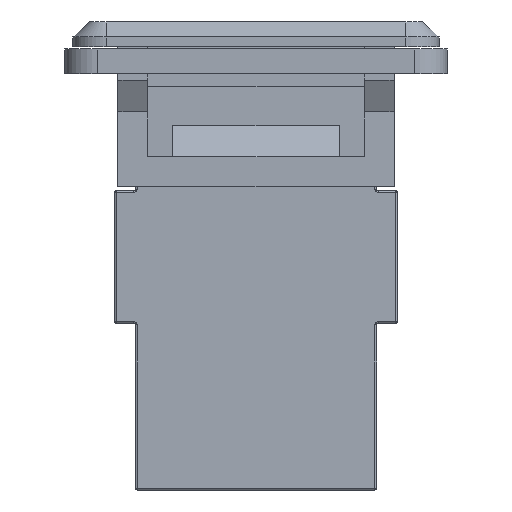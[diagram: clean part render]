
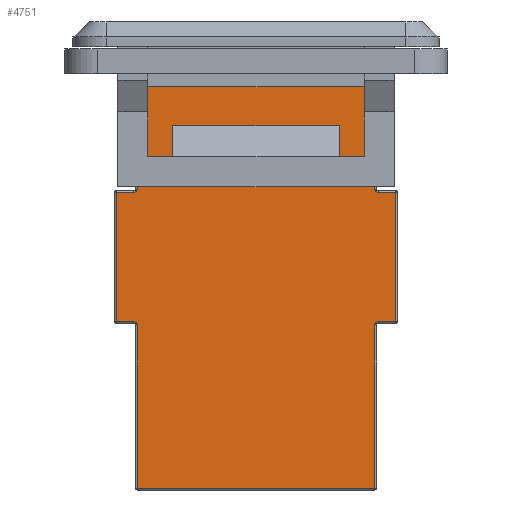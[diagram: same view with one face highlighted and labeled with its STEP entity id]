
A CAD part, left-side view. The second image highlights one B-rep face of the part: STEP entity #4751.
In plain terms, the highlighted planar face has unit normal (-1, 0, 0) as drawn and (0, 1, 0) by its records, which use the part's own axes.
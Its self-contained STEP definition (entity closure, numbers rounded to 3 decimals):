
#4386 = VERTEX_POINT('',#4387);
#4387 = CARTESIAN_POINT('',(-7.15,8.05,-13.9));
#4394 = EDGE_CURVE('',#4395,#4386,#4397,.T.);
#4395 = VERTEX_POINT('',#4396);
#4396 = CARTESIAN_POINT('',(7.15,8.05,-13.9));
#4397 = LINE('',#4398,#4399);
#4398 = CARTESIAN_POINT('',(7.25,8.05,-13.9));
#4399 = VECTOR('',#4400,1.);
#4400 = DIRECTION('',(-1.,-0.,-0.));
#4751 = ADVANCED_FACE('',(#4752,#4877),#4911,.T.);
#4752 = FACE_BOUND('',#4753,.T.);
#4753 = EDGE_LOOP('',(#4754,#4764,#4772,#4781,#4787,#4788,#4796,#4805,
    #4813,#4821,#4829,#4838,#4846,#4854,#4862,#4871));
#4754 = ORIENTED_EDGE('',*,*,#4755,.F.);
#4755 = EDGE_CURVE('',#4756,#4758,#4760,.T.);
#4756 = VERTEX_POINT('',#4757);
#4757 = CARTESIAN_POINT('',(8.4,8.05,-3.88));
#4758 = VERTEX_POINT('',#4759);
#4759 = CARTESIAN_POINT('',(8.4,8.05,3.88));
#4760 = LINE('',#4761,#4762);
#4761 = CARTESIAN_POINT('',(8.4,8.05,0.));
#4762 = VECTOR('',#4763,1.);
#4763 = DIRECTION('',(0.,0.,1.));
#4764 = ORIENTED_EDGE('',*,*,#4765,.T.);
#4765 = EDGE_CURVE('',#4756,#4766,#4768,.T.);
#4766 = VERTEX_POINT('',#4767);
#4767 = CARTESIAN_POINT('',(7.35,8.05,-3.88));
#4768 = LINE('',#4769,#4770);
#4769 = CARTESIAN_POINT('',(8.5,8.05,-3.88));
#4770 = VECTOR('',#4771,1.);
#4771 = DIRECTION('',(-1.,-0.,-0.));
#4772 = ORIENTED_EDGE('',*,*,#4773,.T.);
#4773 = EDGE_CURVE('',#4766,#4774,#4776,.T.);
#4774 = VERTEX_POINT('',#4775);
#4775 = CARTESIAN_POINT('',(7.15,8.05,-4.08));
#4776 = CIRCLE('',#4777,0.2);
#4777 = AXIS2_PLACEMENT_3D('',#4778,#4779,#4780);
#4778 = CARTESIAN_POINT('',(7.35,8.05,-4.08));
#4779 = DIRECTION('',(0.,-1.,0.));
#4780 = DIRECTION('',(0.,0.,1.));
#4781 = ORIENTED_EDGE('',*,*,#4782,.T.);
#4782 = EDGE_CURVE('',#4774,#4395,#4783,.T.);
#4783 = LINE('',#4784,#4785);
#4784 = CARTESIAN_POINT('',(7.15,8.05,-3.98));
#4785 = VECTOR('',#4786,1.);
#4786 = DIRECTION('',(-0.,-0.,-1.));
#4787 = ORIENTED_EDGE('',*,*,#4394,.T.);
#4788 = ORIENTED_EDGE('',*,*,#4789,.F.);
#4789 = EDGE_CURVE('',#4790,#4386,#4792,.T.);
#4790 = VERTEX_POINT('',#4791);
#4791 = CARTESIAN_POINT('',(-7.15,8.05,-4.08));
#4792 = LINE('',#4793,#4794);
#4793 = CARTESIAN_POINT('',(-7.15,8.05,-3.98));
#4794 = VECTOR('',#4795,1.);
#4795 = DIRECTION('',(-0.,-0.,-1.));
#4796 = ORIENTED_EDGE('',*,*,#4797,.F.);
#4797 = EDGE_CURVE('',#4798,#4790,#4800,.T.);
#4798 = VERTEX_POINT('',#4799);
#4799 = CARTESIAN_POINT('',(-7.35,8.05,-3.88));
#4800 = CIRCLE('',#4801,0.2);
#4801 = AXIS2_PLACEMENT_3D('',#4802,#4803,#4804);
#4802 = CARTESIAN_POINT('',(-7.35,8.05,-4.08));
#4803 = DIRECTION('',(0.,1.,0.));
#4804 = DIRECTION('',(0.,-0.,1.));
#4805 = ORIENTED_EDGE('',*,*,#4806,.T.);
#4806 = EDGE_CURVE('',#4798,#4807,#4809,.T.);
#4807 = VERTEX_POINT('',#4808);
#4808 = CARTESIAN_POINT('',(-8.4,8.05,-3.88));
#4809 = LINE('',#4810,#4811);
#4810 = CARTESIAN_POINT('',(-7.25,8.05,-3.88));
#4811 = VECTOR('',#4812,1.);
#4812 = DIRECTION('',(-1.,-0.,-0.));
#4813 = ORIENTED_EDGE('',*,*,#4814,.F.);
#4814 = EDGE_CURVE('',#4815,#4807,#4817,.T.);
#4815 = VERTEX_POINT('',#4816);
#4816 = CARTESIAN_POINT('',(-8.4,8.05,3.88));
#4817 = LINE('',#4818,#4819);
#4818 = CARTESIAN_POINT('',(-8.4,8.05,0.));
#4819 = VECTOR('',#4820,1.);
#4820 = DIRECTION('',(-0.,-0.,-1.));
#4821 = ORIENTED_EDGE('',*,*,#4822,.F.);
#4822 = EDGE_CURVE('',#4823,#4815,#4825,.T.);
#4823 = VERTEX_POINT('',#4824);
#4824 = CARTESIAN_POINT('',(-7.35,8.05,3.88));
#4825 = LINE('',#4826,#4827);
#4826 = CARTESIAN_POINT('',(-7.25,8.05,3.88));
#4827 = VECTOR('',#4828,1.);
#4828 = DIRECTION('',(-1.,0.,0.));
#4829 = ORIENTED_EDGE('',*,*,#4830,.T.);
#4830 = EDGE_CURVE('',#4823,#4831,#4833,.T.);
#4831 = VERTEX_POINT('',#4832);
#4832 = CARTESIAN_POINT('',(-7.15,8.05,4.08));
#4833 = CIRCLE('',#4834,0.2);
#4834 = AXIS2_PLACEMENT_3D('',#4835,#4836,#4837);
#4835 = CARTESIAN_POINT('',(-7.35,8.05,4.08));
#4836 = DIRECTION('',(0.,-1.,0.));
#4837 = DIRECTION('',(0.,0.,-1.));
#4838 = ORIENTED_EDGE('',*,*,#4839,.T.);
#4839 = EDGE_CURVE('',#4831,#4840,#4842,.T.);
#4840 = VERTEX_POINT('',#4841);
#4841 = CARTESIAN_POINT('',(-7.15,8.05,13.9));
#4842 = LINE('',#4843,#4844);
#4843 = CARTESIAN_POINT('',(-7.15,8.05,3.98));
#4844 = VECTOR('',#4845,1.);
#4845 = DIRECTION('',(0.,0.,1.));
#4846 = ORIENTED_EDGE('',*,*,#4847,.F.);
#4847 = EDGE_CURVE('',#4848,#4840,#4850,.T.);
#4848 = VERTEX_POINT('',#4849);
#4849 = CARTESIAN_POINT('',(7.15,8.05,13.9));
#4850 = LINE('',#4851,#4852);
#4851 = CARTESIAN_POINT('',(7.25,8.05,13.9));
#4852 = VECTOR('',#4853,1.);
#4853 = DIRECTION('',(-1.,0.,0.));
#4854 = ORIENTED_EDGE('',*,*,#4855,.F.);
#4855 = EDGE_CURVE('',#4856,#4848,#4858,.T.);
#4856 = VERTEX_POINT('',#4857);
#4857 = CARTESIAN_POINT('',(7.15,8.05,4.08));
#4858 = LINE('',#4859,#4860);
#4859 = CARTESIAN_POINT('',(7.15,8.05,3.98));
#4860 = VECTOR('',#4861,1.);
#4861 = DIRECTION('',(0.,0.,1.));
#4862 = ORIENTED_EDGE('',*,*,#4863,.F.);
#4863 = EDGE_CURVE('',#4864,#4856,#4866,.T.);
#4864 = VERTEX_POINT('',#4865);
#4865 = CARTESIAN_POINT('',(7.35,8.05,3.88));
#4866 = CIRCLE('',#4867,0.2);
#4867 = AXIS2_PLACEMENT_3D('',#4868,#4869,#4870);
#4868 = CARTESIAN_POINT('',(7.35,8.05,4.08));
#4869 = DIRECTION('',(0.,1.,0.));
#4870 = DIRECTION('',(0.,0.,-1.));
#4871 = ORIENTED_EDGE('',*,*,#4872,.F.);
#4872 = EDGE_CURVE('',#4758,#4864,#4873,.T.);
#4873 = LINE('',#4874,#4875);
#4874 = CARTESIAN_POINT('',(8.5,8.05,3.88));
#4875 = VECTOR('',#4876,1.);
#4876 = DIRECTION('',(-1.,0.,0.));
#4877 = FACE_BOUND('',#4878,.T.);
#4878 = EDGE_LOOP('',(#4879,#4889,#4897,#4905));
#4879 = ORIENTED_EDGE('',*,*,#4880,.F.);
#4880 = EDGE_CURVE('',#4881,#4883,#4885,.T.);
#4881 = VERTEX_POINT('',#4882);
#4882 = CARTESIAN_POINT('',(5.,8.05,5.9));
#4883 = VERTEX_POINT('',#4884);
#4884 = CARTESIAN_POINT('',(-5.,8.05,5.9));
#4885 = LINE('',#4886,#4887);
#4886 = CARTESIAN_POINT('',(5.,8.05,5.9));
#4887 = VECTOR('',#4888,1.);
#4888 = DIRECTION('',(-1.,0.,0.));
#4889 = ORIENTED_EDGE('',*,*,#4890,.F.);
#4890 = EDGE_CURVE('',#4891,#4881,#4893,.T.);
#4891 = VERTEX_POINT('',#4892);
#4892 = CARTESIAN_POINT('',(5.,8.05,7.9));
#4893 = LINE('',#4894,#4895);
#4894 = CARTESIAN_POINT('',(5.,8.05,7.9));
#4895 = VECTOR('',#4896,1.);
#4896 = DIRECTION('',(0.,0.,-1.));
#4897 = ORIENTED_EDGE('',*,*,#4898,.F.);
#4898 = EDGE_CURVE('',#4899,#4891,#4901,.T.);
#4899 = VERTEX_POINT('',#4900);
#4900 = CARTESIAN_POINT('',(-5.,8.05,7.9));
#4901 = LINE('',#4902,#4903);
#4902 = CARTESIAN_POINT('',(-5.,8.05,7.9));
#4903 = VECTOR('',#4904,1.);
#4904 = DIRECTION('',(1.,0.,0.));
#4905 = ORIENTED_EDGE('',*,*,#4906,.F.);
#4906 = EDGE_CURVE('',#4883,#4899,#4907,.T.);
#4907 = LINE('',#4908,#4909);
#4908 = CARTESIAN_POINT('',(-5.,8.05,5.9));
#4909 = VECTOR('',#4910,1.);
#4910 = DIRECTION('',(0.,0.,1.));
#4911 = PLANE('',#4912);
#4912 = AXIS2_PLACEMENT_3D('',#4913,#4914,#4915);
#4913 = CARTESIAN_POINT('',(0.,8.05,0.)
  );
#4914 = DIRECTION('',(0.,1.,0.));
#4915 = DIRECTION('',(0.,-0.,1.));
